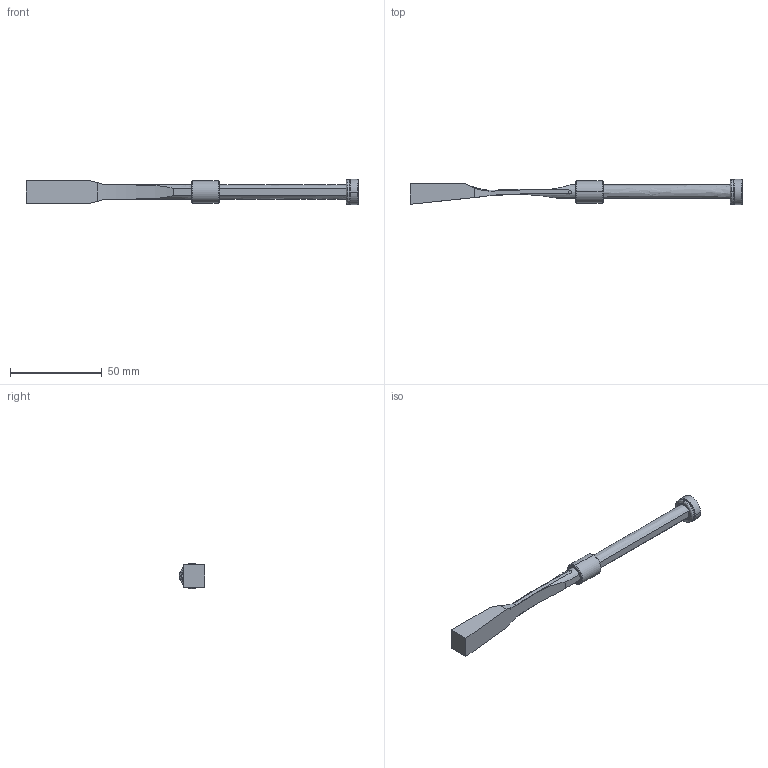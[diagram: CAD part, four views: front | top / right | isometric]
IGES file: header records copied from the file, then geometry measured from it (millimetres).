
Start section: START RECORD GO HERE.
Global section: file name: pw081230_injection.igs; native system: DASSAULT SYSTEMES CATIA V5 R20 - www.3ds.com; preprocessor: CATIA Version 5 Release 20 ; author: Utente; organization: NB04-ASUS; date: 20201108.135651; units: millimetre
Bounding box: 181 x 13.8 x 13.8 mm (x, y, z)
Surface area: 7945.3 mm2 (no closed solid volume)
Topology: 0 solids, 0 shells, 104 faces, 466 edges, 462 vertices
Faces by surface type: revolution 62, plane 34, bspline 8
